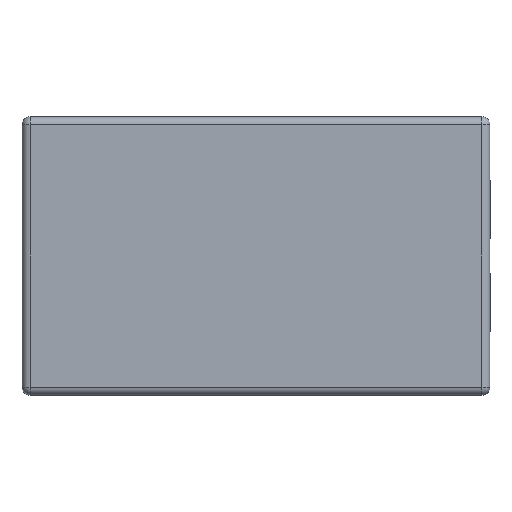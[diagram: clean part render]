
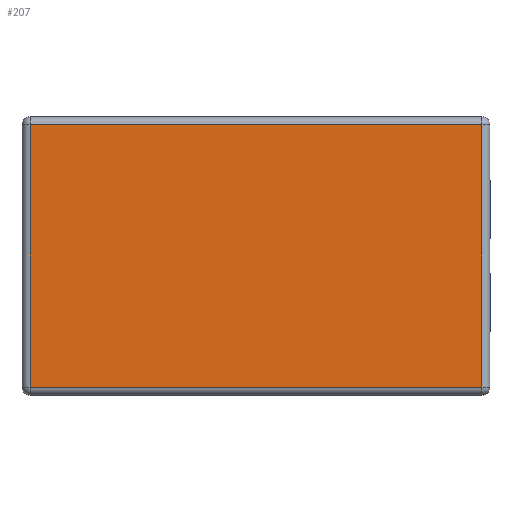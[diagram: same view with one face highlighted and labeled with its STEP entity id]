
A CAD part, front view. The second image highlights one B-rep face of the part: STEP entity #207.
In plain terms, the highlighted planar face has unit normal (0, -1, 0).
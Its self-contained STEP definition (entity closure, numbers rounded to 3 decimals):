
#38 = AXIS2_PLACEMENT_3D ( 'NONE', #619, #608, #603 ) ;
#105 = VECTOR ( 'NONE', #1023, 1000. ) ;
#110 = LINE ( 'NONE', #1028, #105 ) ;
#150 = VECTOR ( 'NONE', #523, 1000. ) ;
#190 = VECTOR ( 'NONE', #468, 1000. ) ;
#206 = LINE ( 'NONE', #470, #190 ) ;
#207 = ADVANCED_FACE ( 'NONE', ( #648 ), #616, .T. ) ;
#220 = LINE ( 'NONE', #501, #150 ) ;
#410 = CARTESIAN_POINT ( 'NONE',  ( -27.175, 0., 15.775 ) ) ;
#420 = VECTOR ( 'NONE', #814, 1000. ) ;
#465 = ORIENTED_EDGE ( 'NONE', *, *, #665, .T. ) ;
#468 = DIRECTION ( 'NONE',  ( 1., 0., 0. ) ) ;
#470 = CARTESIAN_POINT ( 'NONE',  ( 27.175, 0., -15.775 ) ) ;
#501 = CARTESIAN_POINT ( 'NONE',  ( 27.175, 0., 15.775 ) ) ;
#503 = EDGE_CURVE ( 'NONE', #721, #900, #110, .T. ) ;
#523 = DIRECTION ( 'NONE',  ( 0., 0., 1. ) ) ;
#535 = VERTEX_POINT ( 'NONE', #1001 ) ;
#584 = VERTEX_POINT ( 'NONE', #957 ) ;
#603 = DIRECTION ( 'NONE',  ( 0., 0., -1. ) ) ;
#608 = DIRECTION ( 'NONE',  ( 0., -1., 0. ) ) ;
#616 = PLANE ( 'NONE',  #38 ) ;
#619 = CARTESIAN_POINT ( 'NONE',  ( 0., 0., 0. ) ) ;
#648 = FACE_OUTER_BOUND ( 'NONE', #810, .T. ) ;
#665 = EDGE_CURVE ( 'NONE', #900, #584, #716, .T. ) ;
#716 = LINE ( 'NONE', #816, #420 ) ;
#719 = CARTESIAN_POINT ( 'NONE',  ( 27.175, 0., 15.775 ) ) ;
#721 = VERTEX_POINT ( 'NONE', #719 ) ;
#810 = EDGE_LOOP ( 'NONE', ( #465, #871, #887, #886 ) ) ;
#814 = DIRECTION ( 'NONE',  ( 0., 0., -1. ) ) ;
#816 = CARTESIAN_POINT ( 'NONE',  ( -27.175, 0., -15.775 ) ) ;
#867 = EDGE_CURVE ( 'NONE', #584, #535, #206, .T. ) ;
#871 = ORIENTED_EDGE ( 'NONE', *, *, #867, .T. ) ;
#872 = EDGE_CURVE ( 'NONE', #535, #721, #220, .T. ) ;
#886 = ORIENTED_EDGE ( 'NONE', *, *, #503, .T. ) ;
#887 = ORIENTED_EDGE ( 'NONE', *, *, #872, .T. ) ;
#900 = VERTEX_POINT ( 'NONE', #410 ) ;
#957 = CARTESIAN_POINT ( 'NONE',  ( -27.175, 0., -15.775 ) ) ;
#1001 = CARTESIAN_POINT ( 'NONE',  ( 27.175, 0., -15.775 ) ) ;
#1023 = DIRECTION ( 'NONE',  ( -1., 0., 0. ) ) ;
#1028 = CARTESIAN_POINT ( 'NONE',  ( -27.175, 0., 15.775 ) ) ;
